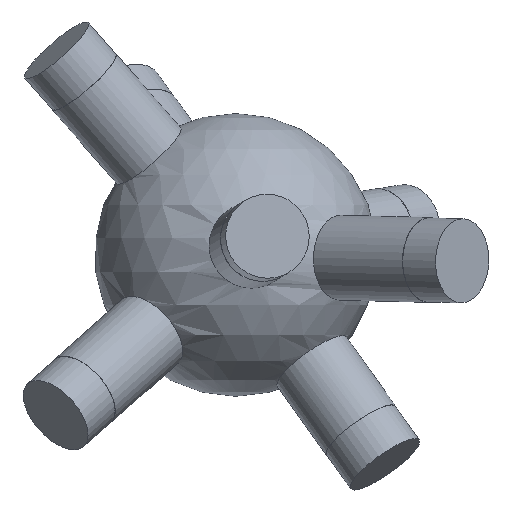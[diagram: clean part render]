
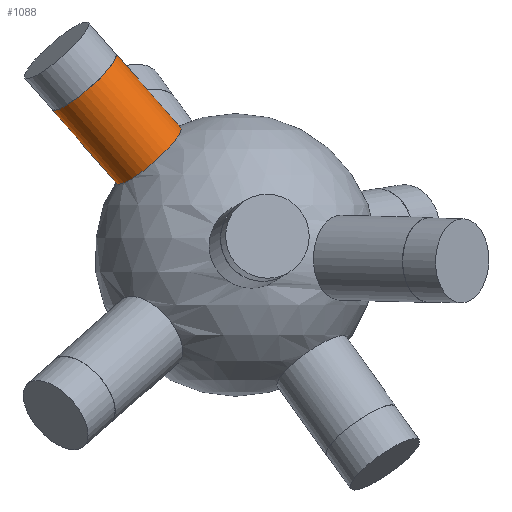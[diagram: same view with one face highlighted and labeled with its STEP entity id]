
A CAD part, front view. The second image highlights one B-rep face of the part: STEP entity #1088.
In plain terms, the highlighted cylindrical face has radius 6 mm (diameter 12 mm), a full revolution.
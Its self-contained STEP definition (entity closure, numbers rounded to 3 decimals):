
#33 = SPHERICAL_SURFACE('',#34,20.);
#34 = AXIS2_PLACEMENT_3D('',#35,#36,#37);
#35 = CARTESIAN_POINT('',(0.,0.,0.));
#36 = DIRECTION('',(0.,0.,1.));
#37 = DIRECTION('',(1.,0.,-0.));
#659 = EDGE_CURVE('',#660,#660,#662,.T.);
#660 = VERTEX_POINT('',#661);
#661 = CARTESIAN_POINT('',(-7.817,-3.783,
    18.016));
#662 = SURFACE_CURVE('',#663,(#668,#744),.PCURVE_S1.);
#663 = CIRCLE('',#664,6.);
#664 = AXIS2_PLACEMENT_3D('',#665,#666,#667);
#665 = CARTESIAN_POINT('',(-12.329,-3.783,
    14.06));
#666 = DIRECTION('',(-0.646,-0.198,0.737));
#667 = DIRECTION('',(-0.752,0.,-0.659
    ));
#668 = PCURVE('',#33,#669);
#669 = DEFINITIONAL_REPRESENTATION('',(#670),#743);
#670 = B_SPLINE_CURVE_WITH_KNOTS('',8,(#671,#672,#673,#674,#675,#676,
    #677,#678,#679,#680,#681,#682,#683,#684,#685,#686,#687,#688,#689,
    #690,#691,#692,#693,#694,#695,#696,#697,#698,#699,#700,#701,#702,
    #703,#704,#705,#706,#707,#708,#709,#710,#711,#712,#713,#714,#715,
    #716,#717,#718,#719,#720,#721,#722,#723,#724,#725,#726,#727,#728,
    #729,#730,#731,#732,#733,#734,#735,#736,#737,#738,#739,#740,#741,
    #742),.UNSPECIFIED.,.F.,.F.,(9,7,7,7,7,7,7,7,7,7,9),(3.142,
    3.534,3.902,4.248,4.895,
    6.027,6.877,7.514,8.469,
    8.947,9.425),.UNSPECIFIED.);
#671 = CARTESIAN_POINT('',(3.592,1.122));
#672 = CARTESIAN_POINT('',(3.56,1.127));
#673 = CARTESIAN_POINT('',(3.527,1.131));
#674 = CARTESIAN_POINT('',(3.493,1.133));
#675 = CARTESIAN_POINT('',(3.458,1.134));
#676 = CARTESIAN_POINT('',(3.423,1.134));
#677 = CARTESIAN_POINT('',(3.388,1.133));
#678 = CARTESIAN_POINT('',(3.354,1.13));
#679 = CARTESIAN_POINT('',(3.29,1.123));
#680 = CARTESIAN_POINT('',(3.26,1.118));
#681 = CARTESIAN_POINT('',(3.231,1.112));
#682 = CARTESIAN_POINT('',(3.204,1.105));
#683 = CARTESIAN_POINT('',(3.179,1.098));
#684 = CARTESIAN_POINT('',(3.155,1.089));
#685 = CARTESIAN_POINT('',(3.133,1.08));
#686 = CARTESIAN_POINT('',(3.095,1.06));
#687 = CARTESIAN_POINT('',(3.078,1.051));
#688 = CARTESIAN_POINT('',(3.062,1.04));
#689 = CARTESIAN_POINT('',(3.048,1.029));
#690 = CARTESIAN_POINT('',(3.036,1.018));
#691 = CARTESIAN_POINT('',(3.026,1.006));
#692 = CARTESIAN_POINT('',(3.016,0.994));
#693 = CARTESIAN_POINT('',(2.994,0.959));
#694 = CARTESIAN_POINT('',(2.984,0.936));
#695 = CARTESIAN_POINT('',(2.978,0.911));
#696 = CARTESIAN_POINT('',(2.976,0.887));
#697 = CARTESIAN_POINT('',(2.978,0.863));
#698 = CARTESIAN_POINT('',(2.982,0.838));
#699 = CARTESIAN_POINT('',(2.989,0.814));
#700 = CARTESIAN_POINT('',(3.016,0.75));
#701 = CARTESIAN_POINT('',(3.04,0.711));
#702 = CARTESIAN_POINT('',(3.07,0.675));
#703 = CARTESIAN_POINT('',(3.105,0.641));
#704 = CARTESIAN_POINT('',(3.144,0.612));
#705 = CARTESIAN_POINT('',(3.186,0.586));
#706 = CARTESIAN_POINT('',(3.23,0.566));
#707 = CARTESIAN_POINT('',(3.311,0.539));
#708 = CARTESIAN_POINT('',(3.347,0.53));
#709 = CARTESIAN_POINT('',(3.384,0.524));
#710 = CARTESIAN_POINT('',(3.421,0.521));
#711 = CARTESIAN_POINT('',(3.458,0.521));
#712 = CARTESIAN_POINT('',(3.495,0.525));
#713 = CARTESIAN_POINT('',(3.531,0.531));
#714 = CARTESIAN_POINT('',(3.593,0.547));
#715 = CARTESIAN_POINT('',(3.619,0.555));
#716 = CARTESIAN_POINT('',(3.645,0.565));
#717 = CARTESIAN_POINT('',(3.67,0.577));
#718 = CARTESIAN_POINT('',(3.694,0.59));
#719 = CARTESIAN_POINT('',(3.717,0.604));
#720 = CARTESIAN_POINT('',(3.74,0.62));
#721 = CARTESIAN_POINT('',(3.792,0.663));
#722 = CARTESIAN_POINT('',(3.82,0.691));
#723 = CARTESIAN_POINT('',(3.846,0.721));
#724 = CARTESIAN_POINT('',(3.867,0.754));
#725 = CARTESIAN_POINT('',(3.884,0.788));
#726 = CARTESIAN_POINT('',(3.896,0.824));
#727 = CARTESIAN_POINT('',(3.901,0.86));
#728 = CARTESIAN_POINT('',(3.898,0.914));
#729 = CARTESIAN_POINT('',(3.894,0.931));
#730 = CARTESIAN_POINT('',(3.889,0.949));
#731 = CARTESIAN_POINT('',(3.882,0.967));
#732 = CARTESIAN_POINT('',(3.872,0.984));
#733 = CARTESIAN_POINT('',(3.859,1.));
#734 = CARTESIAN_POINT('',(3.844,1.016));
#735 = CARTESIAN_POINT('',(3.807,1.047));
#736 = CARTESIAN_POINT('',(3.785,1.061));
#737 = CARTESIAN_POINT('',(3.761,1.075));
#738 = CARTESIAN_POINT('',(3.733,1.087));
#739 = CARTESIAN_POINT('',(3.702,1.098));
#740 = CARTESIAN_POINT('',(3.668,1.108));
#741 = CARTESIAN_POINT('',(3.631,1.115));
#742 = CARTESIAN_POINT('',(3.592,1.122));
#743 = ( GEOMETRIC_REPRESENTATION_CONTEXT(2) 
PARAMETRIC_REPRESENTATION_CONTEXT() REPRESENTATION_CONTEXT('2D SPACE',''
  ) );
#744 = PCURVE('',#745,#750);
#745 = CYLINDRICAL_SURFACE('',#746,6.);
#746 = AXIS2_PLACEMENT_3D('',#747,#748,#749);
#747 = CARTESIAN_POINT('',(0.,0.,0.));
#748 = DIRECTION('',(-0.646,-0.198,0.737));
#749 = DIRECTION('',(0.752,0.,0.659));
#750 = DEFINITIONAL_REPRESENTATION('',(#751),#755);
#751 = LINE('',#752,#753);
#752 = CARTESIAN_POINT('',(-3.142,19.079));
#753 = VECTOR('',#754,1.);
#754 = DIRECTION('',(1.,0.));
#755 = ( GEOMETRIC_REPRESENTATION_CONTEXT(2) 
PARAMETRIC_REPRESENTATION_CONTEXT() REPRESENTATION_CONTEXT('2D SPACE',''
  ) );
#1088 = ADVANCED_FACE('',(#1089),#745,.T.);
#1089 = FACE_BOUND('',#1090,.T.);
#1090 = EDGE_LOOP('',(#1091,#1114,#1141,#1142));
#1091 = ORIENTED_EDGE('',*,*,#1092,.T.);
#1092 = EDGE_CURVE('',#660,#1093,#1095,.T.);
#1093 = VERTEX_POINT('',#1094);
#1094 = CARTESIAN_POINT('',(-16.978,-6.593,
    28.464));
#1095 = SEAM_CURVE('',#1096,(#1100,#1107),.PCURVE_S1.);
#1096 = LINE('',#1097,#1098);
#1097 = CARTESIAN_POINT('',(4.511,0.,
    3.956));
#1098 = VECTOR('',#1099,1.);
#1099 = DIRECTION('',(-0.646,-0.198,0.737));
#1100 = PCURVE('',#745,#1101);
#1101 = DEFINITIONAL_REPRESENTATION('',(#1102),#1106);
#1102 = LINE('',#1103,#1104);
#1103 = CARTESIAN_POINT('',(6.283,-0.));
#1104 = VECTOR('',#1105,1.);
#1105 = DIRECTION('',(0.,1.));
#1106 = ( GEOMETRIC_REPRESENTATION_CONTEXT(2) 
PARAMETRIC_REPRESENTATION_CONTEXT() REPRESENTATION_CONTEXT('2D SPACE',''
  ) );
#1107 = PCURVE('',#745,#1108);
#1108 = DEFINITIONAL_REPRESENTATION('',(#1109),#1113);
#1109 = LINE('',#1110,#1111);
#1110 = CARTESIAN_POINT('',(0.,-0.));
#1111 = VECTOR('',#1112,1.);
#1112 = DIRECTION('',(0.,1.));
#1113 = ( GEOMETRIC_REPRESENTATION_CONTEXT(2) 
PARAMETRIC_REPRESENTATION_CONTEXT() REPRESENTATION_CONTEXT('2D SPACE',''
  ) );
#1114 = ORIENTED_EDGE('',*,*,#1115,.F.);
#1115 = EDGE_CURVE('',#1093,#1093,#1116,.T.);
#1116 = SURFACE_CURVE('',#1117,(#1122,#1129),.PCURVE_S1.);
#1117 = CIRCLE('',#1118,6.);
#1118 = AXIS2_PLACEMENT_3D('',#1119,#1120,#1121);
#1119 = CARTESIAN_POINT('',(-21.489,-6.593,
    24.508));
#1120 = DIRECTION('',(-0.646,-0.198,0.737));
#1121 = DIRECTION('',(0.752,0.,0.659)
  );
#1122 = PCURVE('',#745,#1123);
#1123 = DEFINITIONAL_REPRESENTATION('',(#1124),#1128);
#1124 = LINE('',#1125,#1126);
#1125 = CARTESIAN_POINT('',(0.,33.255));
#1126 = VECTOR('',#1127,1.);
#1127 = DIRECTION('',(1.,0.));
#1128 = ( GEOMETRIC_REPRESENTATION_CONTEXT(2) 
PARAMETRIC_REPRESENTATION_CONTEXT() REPRESENTATION_CONTEXT('2D SPACE',''
  ) );
#1129 = PCURVE('',#1130,#1135);
#1130 = PLANE('',#1131);
#1131 = AXIS2_PLACEMENT_3D('',#1132,#1133,#1134);
#1132 = CARTESIAN_POINT('',(-21.489,-6.593,
    24.508));
#1133 = DIRECTION('',(-0.646,-0.198,0.737));
#1134 = DIRECTION('',(0.752,0.,0.659)
  );
#1135 = DEFINITIONAL_REPRESENTATION('',(#1136),#1140);
#1136 = CIRCLE('',#1137,6.);
#1137 = AXIS2_PLACEMENT_2D('',#1138,#1139);
#1138 = CARTESIAN_POINT('',(0.,0.));
#1139 = DIRECTION('',(1.,0.));
#1140 = ( GEOMETRIC_REPRESENTATION_CONTEXT(2) 
PARAMETRIC_REPRESENTATION_CONTEXT() REPRESENTATION_CONTEXT('2D SPACE',''
  ) );
#1141 = ORIENTED_EDGE('',*,*,#1092,.F.);
#1142 = ORIENTED_EDGE('',*,*,#659,.T.);
